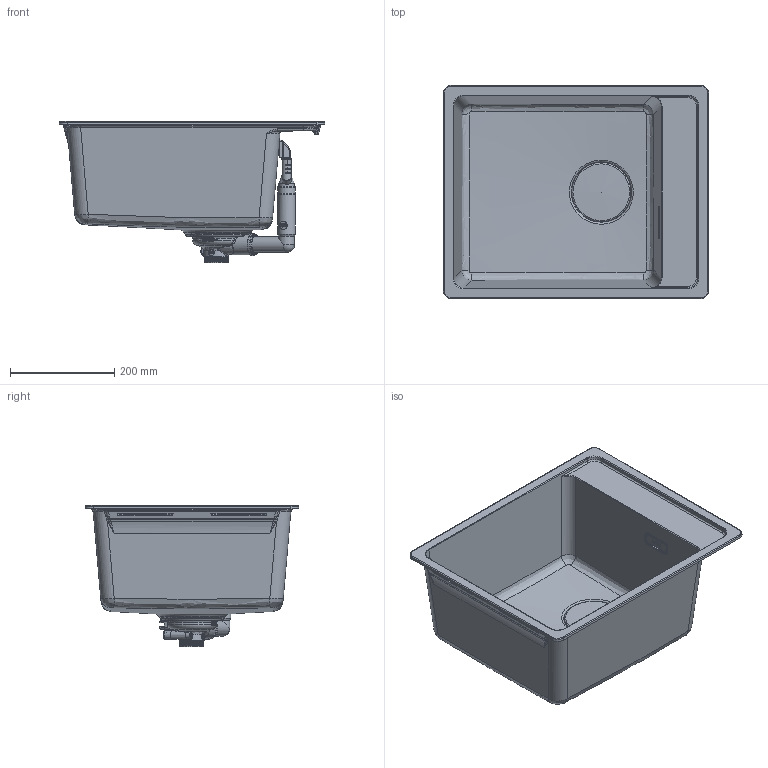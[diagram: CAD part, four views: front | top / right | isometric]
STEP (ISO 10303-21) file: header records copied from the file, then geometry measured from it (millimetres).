
FILE_DESCRIPTION(/* description */ ('UBG 611-62'),/* implementation_level */ '2;1');
FILE_NAME(/* name */ 'C:\Users\PS950\OneDrive - Franke Group\Desktop\MRG 3D Data\MRG 610-37 TL\MRG 610-37 TL.stp',/* time_stamp */ '2021-09-10T13:37:33+02:00',/* author */ ('PS950'),/* organization */ (''),/* preprocessor_version */ 'ST-DEVELOPER v18.1',/* originating_system */ 'Autodesk Inventor 2021',/* authorisation */ '');
FILE_SCHEMA (('AUTOMOTIVE_DESIGN { 1 0 10303 214 3 1 1 }'));
Products named in the file (22): 0056-218847; Standard; NEW MARIS_V01; 0056-218666; 0056-202897; 0056-214469; 0056-203246; 0056-213999; 0056-127368; 0056-215850; 0056-215855; 0056-185732; 0056-214454; 0056-214010; 0056-135514; 0056-137629; 0056-142823; 0056-165491; 0056-161093; 0056-216002; 0056-216000; 0056-207145
Assembly tree (24 placements, depth 4):
  0056-218847
    Standard
      NEW MARIS_V01
    0056-218666
      0056-202897
      0056-214469
      0056-203246
        0056-213999
        0056-127368
        0056-215850
        0056-215855
        0056-185732
        0056-214454
        0056-214010
    0056-135514
    0056-137629
    0056-142823
    0056-165491
    0056-161093
    0056-216002
      0056-216000
      0056-207145  x4
Bounding box: 510 x 410 x 271.19 mm (x, y, z)
Volume: 3462717.7 mm3; surface area: 1137899.9 mm2
Topology: 20 solids, 20 shells, 5149 faces, 13667 edges, 8748 vertices
Faces by surface type: plane 2679, bspline 1156, cylinder 683, torus 347, cone 221, sphere 63
Full cylindrical faces by diameter (mm): 3.242 x1, 4 x1, 4.5 x1, 4.7 x1, 4.85 x1, 5.2 x1, 5.25 x1, 5.85 x2, 6 x4, 6.01 x1, 6.2 x1, 8 x2, 8.25 x1, 11.003 x8, 12 x1, 12.5 x9, 12.6 x1, 13.743 x1, 14.3 x1, 16.941 x1, 22 x1, 26 x1, 27 x1, 28 x2, 30 x7, 33 x2, 33.75 x1, 34 x2, 36.5 x1, 39 x2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
Entity records: 184812 total; most frequent: CARTESIAN_POINT 68000, ORIENTED_EDGE 26132, DIRECTION 20757, EDGE_CURVE 13066, VERTEX_POINT 8436, LINE 7631, VECTOR 7631, AXIS2_PLACEMENT_3D 6563
